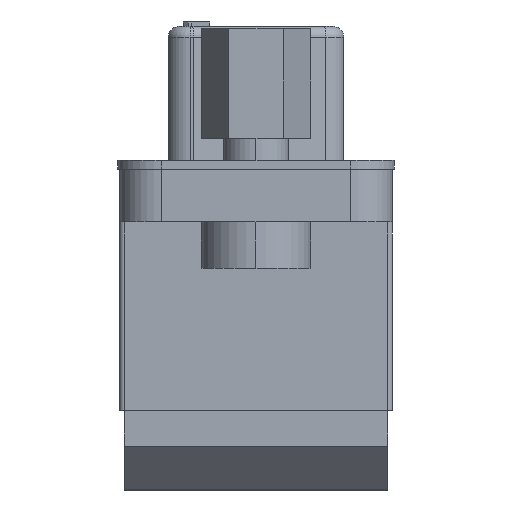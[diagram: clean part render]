
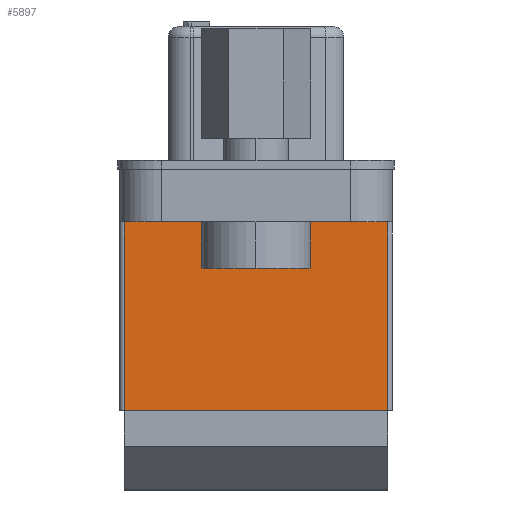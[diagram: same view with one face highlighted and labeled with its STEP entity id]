
A CAD part, left-side view. The second image highlights one B-rep face of the part: STEP entity #5897.
In plain terms, the highlighted planar face has unit normal (-1, 0, 0).
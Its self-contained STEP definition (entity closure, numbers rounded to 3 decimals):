
#4193 = EDGE_CURVE ( 'NONE', #4238, #4241, #5288, .T. ) ;
#4238 = VERTEX_POINT ( 'NONE', #5317 ) ;
#4241 = VERTEX_POINT ( 'NONE', #5315 ) ;
#5174 = EDGE_CURVE ( 'NONE', #5176, #5179, #7341, .T. ) ;
#5176 = VERTEX_POINT ( 'NONE', #7334 ) ;
#5179 = VERTEX_POINT ( 'NONE', #7333 ) ;
#5273 = DIRECTION ( 'NONE',  ( 0., 1., 0. ) ) ;
#5274 = VECTOR ( 'NONE', #5273, 1000. ) ;
#5276 = CARTESIAN_POINT ( 'NONE',  ( -28.905, -6., -11.4 ) ) ;
#5288 = LINE ( 'NONE', #5276, #5274 ) ;
#5315 = CARTESIAN_POINT ( 'NONE',  ( -28.905, 6., -11.4 ) ) ;
#5317 = CARTESIAN_POINT ( 'NONE',  ( -28.905, -6., -11.4 ) ) ;
#5878 = ORIENTED_EDGE ( 'NONE', *, *, #5894, .T. ) ;
#5894 = EDGE_CURVE ( 'NONE', #4238, #5179, #8509, .T. ) ;
#5897 = ADVANCED_FACE ( 'NONE', ( #8505 ), #8503, .F. ) ;
#5898 = EDGE_LOOP ( 'NONE', ( #5899, #5900, #5957, #5878 ) ) ;
#5899 = ORIENTED_EDGE ( 'NONE', *, *, #5174, .F. ) ;
#5900 = ORIENTED_EDGE ( 'NONE', *, *, #5901, .F. ) ;
#5901 = EDGE_CURVE ( 'NONE', #4241, #5176, #8504, .T. ) ;
#5957 = ORIENTED_EDGE ( 'NONE', *, *, #4193, .F. ) ;
#7333 = CARTESIAN_POINT ( 'NONE',  ( -28.905, -6., -2.8 ) ) ;
#7334 = CARTESIAN_POINT ( 'NONE',  ( -28.905, 6., -2.8 ) ) ;
#7335 = DIRECTION ( 'NONE',  ( 0., -1., 0. ) ) ;
#7336 = VECTOR ( 'NONE', #7335, 1000. ) ;
#7337 = CARTESIAN_POINT ( 'NONE',  ( -28.905, -4.3, -2.8 ) ) ;
#7341 = LINE ( 'NONE', #7337, #7336 ) ;
#8496 = DIRECTION ( 'NONE',  ( 0., 0., 1. ) ) ;
#8497 = VECTOR ( 'NONE', #8496, 1000. ) ;
#8498 = CARTESIAN_POINT ( 'NONE',  ( -28.905, 6., -11.4 ) ) ;
#8499 = DIRECTION ( 'NONE',  ( 0., 0., -1. ) ) ;
#8500 = DIRECTION ( 'NONE',  ( 1., 0., 0. ) ) ;
#8501 = CARTESIAN_POINT ( 'NONE',  ( -28.905, -6., -11.4 ) ) ;
#8502 = AXIS2_PLACEMENT_3D ( 'NONE', #8501, #8500, #8499 ) ;
#8503 = PLANE ( 'NONE',  #8502 ) ;
#8504 = LINE ( 'NONE', #8498, #8497 ) ;
#8505 = FACE_OUTER_BOUND ( 'NONE', #5898, .T. ) ;
#8506 = DIRECTION ( 'NONE',  ( 0., 0., 1. ) ) ;
#8507 = VECTOR ( 'NONE', #8506, 1000. ) ;
#8508 = CARTESIAN_POINT ( 'NONE',  ( -28.905, -6., -11.4 ) ) ;
#8509 = LINE ( 'NONE', #8508, #8507 ) ;
